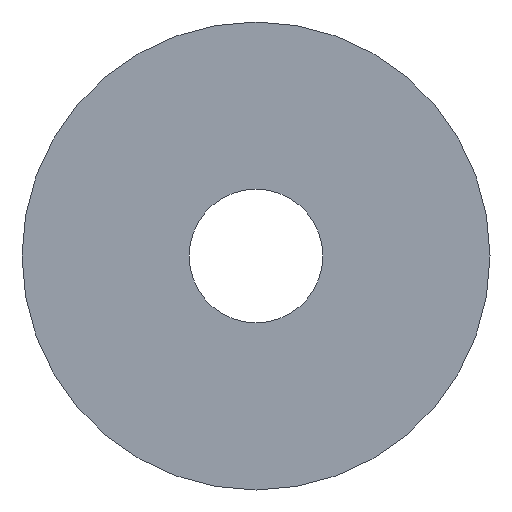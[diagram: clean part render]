
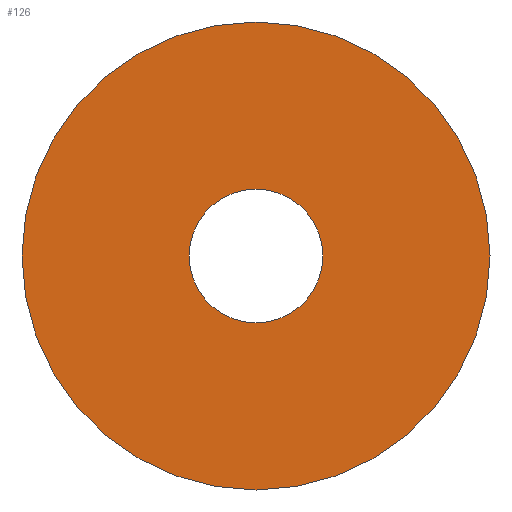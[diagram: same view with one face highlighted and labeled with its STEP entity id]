
A CAD part, front view. The second image highlights one B-rep face of the part: STEP entity #126.
In plain terms, the highlighted planar face has unit normal (0, -1, 0).
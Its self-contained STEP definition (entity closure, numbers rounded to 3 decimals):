
#2 = FACE_OUTER_BOUND ( 'NONE', #112, .T. ) ;
#5 = EDGE_LOOP ( 'NONE', ( #128 ) ) ;
#6 = CIRCLE ( 'NONE', #118, 21. ) ;
#20 = VERTEX_POINT ( 'NONE', #73 ) ;
#25 = DIRECTION ( 'NONE',  ( 0., 1., 0. ) ) ;
#26 = CARTESIAN_POINT ( 'NONE',  ( 6., -9.5, 0. ) ) ;
#45 = CARTESIAN_POINT ( 'NONE',  ( 0., -9.5, 6. ) ) ;
#49 = ORIENTED_EDGE ( 'NONE', *, *, #78, .F. ) ;
#53 = FACE_BOUND ( 'NONE', #5, .T. ) ;
#72 = CARTESIAN_POINT ( 'NONE',  ( 0., -9.5, 0. ) ) ;
#73 = CARTESIAN_POINT ( 'NONE',  ( 0., -9.5, 21. ) ) ;
#74 = VERTEX_POINT ( 'NONE', #45 ) ;
#78 = EDGE_CURVE ( 'NONE', #20, #20, #6, .T. ) ;
#80 = CARTESIAN_POINT ( 'NONE',  ( 0., -9.5, 0. ) ) ;
#89 = PLANE ( 'NONE',  #90 ) ;
#90 = AXIS2_PLACEMENT_3D ( 'NONE', #26, #92, #150 ) ;
#92 = DIRECTION ( 'NONE',  ( 0., 1., 0. ) ) ;
#104 = DIRECTION ( 'NONE',  ( 0., 1., 0. ) ) ;
#112 = EDGE_LOOP ( 'NONE', ( #49 ) ) ;
#118 = AXIS2_PLACEMENT_3D ( 'NONE', #72, #104, #164 ) ;
#126 = ADVANCED_FACE ( 'NONE', ( #2, #53 ), #89, .F. ) ;
#128 = ORIENTED_EDGE ( 'NONE', *, *, #133, .T. ) ;
#133 = EDGE_CURVE ( 'NONE', #74, #74, #166, .T. ) ;
#134 = DIRECTION ( 'NONE',  ( 0., 0., 1. ) ) ;
#150 = DIRECTION ( 'NONE',  ( 0., 0., 1. ) ) ;
#164 = DIRECTION ( 'NONE',  ( 0., 0., 1. ) ) ;
#166 = CIRCLE ( 'NONE', #174, 6. ) ;
#174 = AXIS2_PLACEMENT_3D ( 'NONE', #80, #25, #134 ) ;
